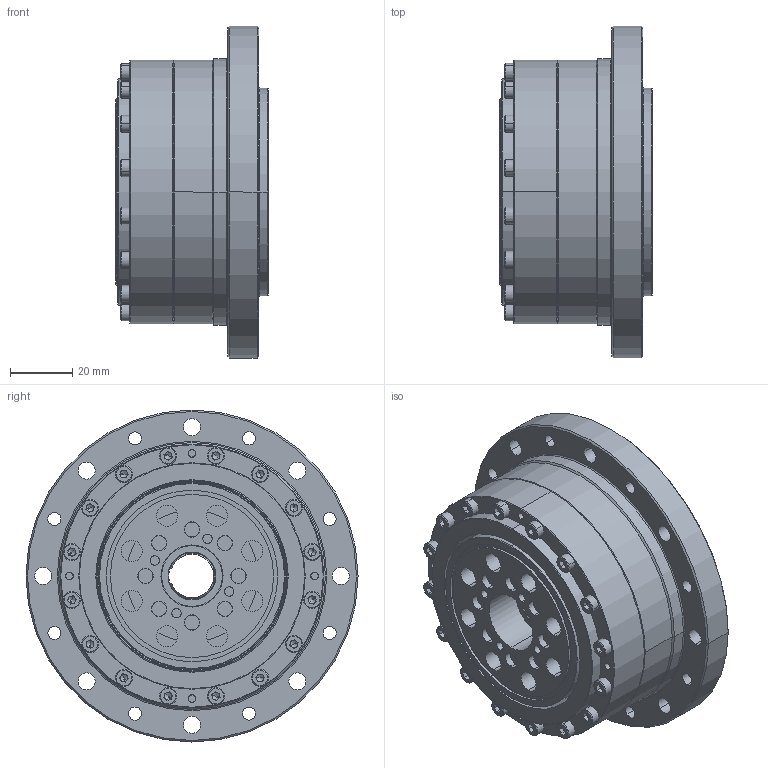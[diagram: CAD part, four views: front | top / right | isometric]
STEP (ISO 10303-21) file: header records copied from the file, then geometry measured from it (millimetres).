
FILE_DESCRIPTION (( 'STEP AP203' ), '1' );
FILE_NAME ('BCS-25-XXX-U-¢ñ.STEP', '2019-01-15T03:19:47', ( 'User' ), ( 'China' ), 'SwSTEP 2.0', 'SolidWorks 2015', '' );
FILE_SCHEMA (( 'CONFIG_CONTROL_DESIGN' ));
Length unit declared in the file: millimetre
Products named in the file (1): BCS-25-XXX-U-ｉ
Bounding box: 49 x 107 x 107 mm (x, y, z)
Surface area: 62650.3 mm2 (no closed solid volume)
Topology: 0 solids, 55 shells, 491 faces, 1509 edges, 985 vertices
Faces by surface type: plane 167, cylinder 157, cone 109, sphere 40, torus 14, bspline 4
Entity records: 17907 total; most frequent: CARTESIAN_POINT 4642, DIRECTION 3047, ORIENTED_EDGE 2296, EDGE_CURVE 1377, AXIS2_PLACEMENT_3D 1199, VERTEX_POINT 925, CIRCLE 711, VECTOR 649
